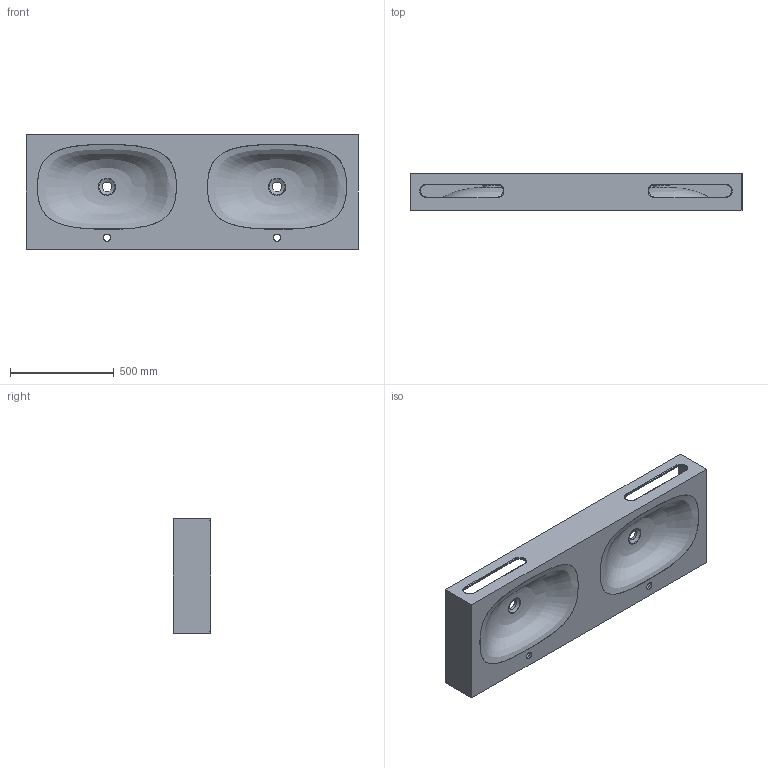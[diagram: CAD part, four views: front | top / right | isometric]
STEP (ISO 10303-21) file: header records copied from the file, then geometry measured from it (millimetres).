
FILE_DESCRIPTION (( 'STEP AP214' ), '1' );
FILE_NAME ('TRINITY-E D 1600.STEP', '2024-05-10T08:56:08', ( '' ), ( '' ), 'SwSTEP 2.0', 'SolidWorks 2021', '' );
FILE_SCHEMA (( 'AUTOMOTIVE_DESIGN' ));
Length unit declared in the file: millimetre
Products named in the file (7): CAD-00001834; CAD-00001831_1600; CAD-00001837; CAD-00001833_1600; TRINITY-E D 1600; CAD-00001832_1600; CAD-00001835_1600
Assembly tree (14 placements, depth 2):
  TRINITY-E D 1600
    CAD-00001831_1600
    CAD-00001832_1600
    CAD-00001833_1600
    CAD-00001834  x2
    CAD-00001835_1600
    CAD-00001837  x8
Bounding box: 1600 x 180 x 550 mm (x, y, z)
Volume: 25551299.8 mm3; surface area: 4567519.1 mm2
Topology: 16 solids, 16 shells, 172 faces, 404 edges, 262 vertices
Faces by surface type: plane 106, cylinder 44, bspline 10, torus 8, cone 4
Full cylindrical faces by diameter (mm): 11 x10, 35 x2, 47.09 x2, 80 x2
Entity records: 73854 total; most frequent: CARTESIAN_POINT 71405, DIRECTION 450, ORIENTED_EDGE 372, EDGE_CURVE 186, AXIS2_PLACEMENT_3D 173, EDGE_LOOP 160, VERTEX_POINT 134, FACE_OUTER_BOUND 122
